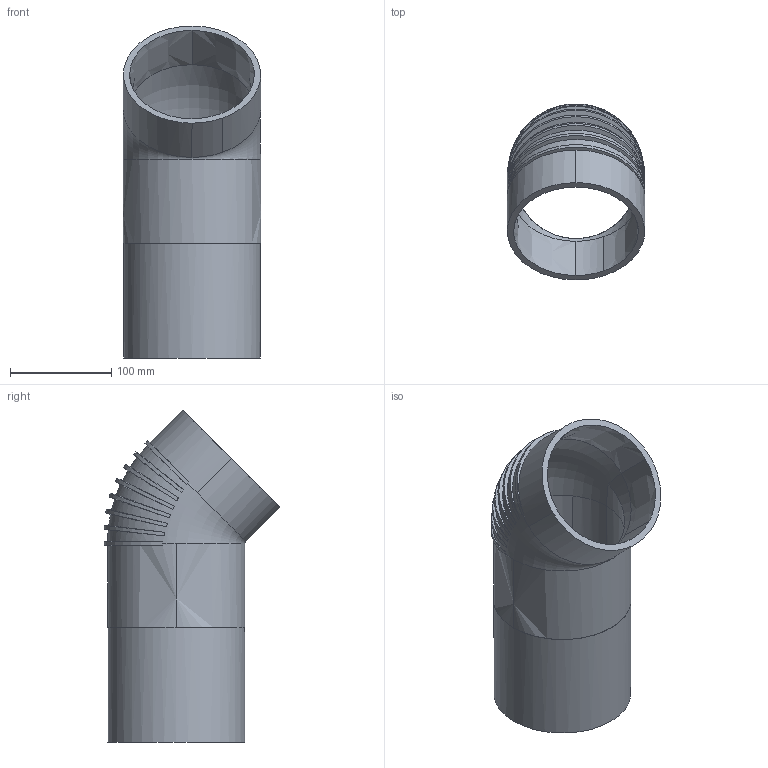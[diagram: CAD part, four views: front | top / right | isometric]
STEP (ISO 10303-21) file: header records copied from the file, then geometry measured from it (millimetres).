
FILE_DESCRIPTION(/* description */ (''),/* implementation_level */ '2;1');
FILE_NAME(/* name */ 'C:\Planerdaten\Export PLA\312.014.14.1\stp\312014.stp',/* time_stamp */ '2019-10-04T07:33:14+02:00',/* author */ ('JANAN'),/* organization */ (''),/* preprocessor_version */ 'ST-DEVELOPER v16.13',/* originating_system */ 'Autodesk Inventor 2018',/* authorisation */ '');
FILE_SCHEMA (('AUTOMOTIVE_DESIGN { 1 0 10303 214 3 1 1 }'));
Length unit declared in the file: millimetre
Products named in the file (1): Bogen PE-S2 45G d135 L22.5/7.7 geschw
Bounding box: 135.65 x 173.51 x 327.34 mm (x, y, z)
Volume: 767186.1 mm3; surface area: 256592 mm2
Topology: 1 solids, 1 shells, 56 faces, 162 edges, 110 vertices
Faces by surface type: cone 16, bspline 16, cylinder 12, plane 10, torus 2
Full cylindrical faces by diameter (mm): 123 x1, 135 x1
Entity records: 6736 total; most frequent: CARTESIAN_POINT 5393, ORIENTED_EDGE 278, DIRECTION 212, EDGE_CURVE 139, VERTEX_POINT 96, AXIS2_PLACEMENT_3D 89, EDGE_LOOP 69, B_SPLINE_CURVE_WITH_KNOTS 57
